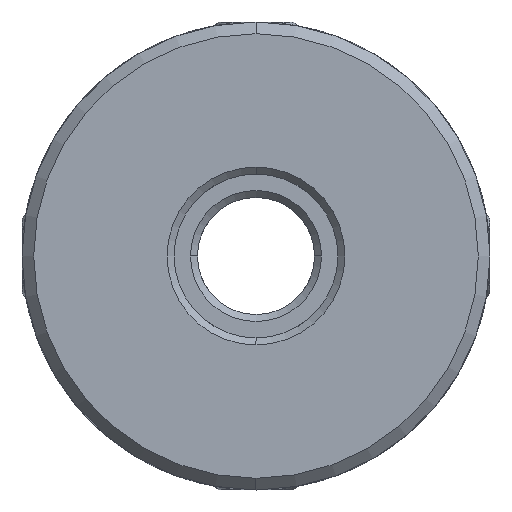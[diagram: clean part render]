
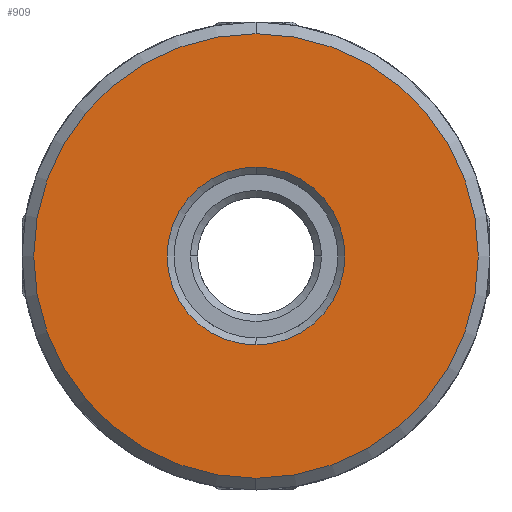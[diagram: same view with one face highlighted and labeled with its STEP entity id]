
A CAD part, front view. The second image highlights one B-rep face of the part: STEP entity #909.
In plain terms, the highlighted planar face has unit normal (0, -1, 0).
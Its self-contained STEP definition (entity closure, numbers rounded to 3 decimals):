
#64 = VERTEX_POINT ( 'NONE', #3288 ) ;
#68 = EDGE_CURVE ( 'NONE', #64, #2817, #7001, .T. ) ;
#280 = DIRECTION ( 'NONE',  ( 0., 1., 0. ) ) ;
#476 = AXIS2_PLACEMENT_3D ( 'NONE', #3103, #6066, #8363 ) ;
#909 = ADVANCED_FACE ( 'NONE', ( #5584, #3099 ), #2309, .F. ) ;
#927 = VERTEX_POINT ( 'NONE', #3828 ) ;
#1043 = CARTESIAN_POINT ( 'NONE',  ( 0., -23., 0. ) ) ;
#1368 = EDGE_LOOP ( 'NONE', ( #3138, #1529 ) ) ;
#1529 = ORIENTED_EDGE ( 'NONE', *, *, #2140, .T. ) ;
#1855 = VERTEX_POINT ( 'NONE', #8794 ) ;
#1993 = EDGE_LOOP ( 'NONE', ( #7072, #6052 ) ) ;
#2140 = EDGE_CURVE ( 'NONE', #1855, #927, #7194, .T. ) ;
#2166 = AXIS2_PLACEMENT_3D ( 'NONE', #2590, #6284, #7038 ) ;
#2249 = DIRECTION ( 'NONE',  ( 0., 1., 0. ) ) ;
#2309 = PLANE ( 'NONE',  #3614 ) ;
#2590 = CARTESIAN_POINT ( 'NONE',  ( 0., -23., 0. ) ) ;
#2817 = VERTEX_POINT ( 'NONE', #6010 ) ;
#3099 = FACE_OUTER_BOUND ( 'NONE', #1993, .T. ) ;
#3103 = CARTESIAN_POINT ( 'NONE',  ( 0., -23., 0. ) ) ;
#3138 = ORIENTED_EDGE ( 'NONE', *, *, #4991, .T. ) ;
#3288 = CARTESIAN_POINT ( 'NONE',  ( 0., -23., -9.5 ) ) ;
#3614 = AXIS2_PLACEMENT_3D ( 'NONE', #6057, #2249, #7493 ) ;
#3828 = CARTESIAN_POINT ( 'NONE',  ( 0., -23., 3.8 ) ) ;
#4045 = DIRECTION ( 'NONE',  ( 0., 0., -1. ) ) ;
#4807 = CARTESIAN_POINT ( 'NONE',  ( 0., -23., 0. ) ) ;
#4991 = EDGE_CURVE ( 'NONE', #927, #1855, #6940, .T. ) ;
#5584 = FACE_BOUND ( 'NONE', #1368, .T. ) ;
#6010 = CARTESIAN_POINT ( 'NONE',  ( 0., -23., 9.5 ) ) ;
#6052 = ORIENTED_EDGE ( 'NONE', *, *, #6302, .T. ) ;
#6057 = CARTESIAN_POINT ( 'NONE',  ( 50., -23., -15.365 ) ) ;
#6066 = DIRECTION ( 'NONE',  ( 0., 1., 0. ) ) ;
#6143 = CIRCLE ( 'NONE', #2166, 9.5 ) ;
#6284 = DIRECTION ( 'NONE',  ( 0., -1., 0. ) ) ;
#6288 = DIRECTION ( 'NONE',  ( 0., -1., 0. ) ) ;
#6302 = EDGE_CURVE ( 'NONE', #2817, #64, #6143, .T. ) ;
#6451 = AXIS2_PLACEMENT_3D ( 'NONE', #1043, #6288, #7078 ) ;
#6547 = AXIS2_PLACEMENT_3D ( 'NONE', #4807, #280, #4045 ) ;
#6940 = CIRCLE ( 'NONE', #6547, 3.8 ) ;
#7001 = CIRCLE ( 'NONE', #6451, 9.5 ) ;
#7038 = DIRECTION ( 'NONE',  ( 0., 0., -1. ) ) ;
#7072 = ORIENTED_EDGE ( 'NONE', *, *, #68, .T. ) ;
#7078 = DIRECTION ( 'NONE',  ( 0., 0., -1. ) ) ;
#7194 = CIRCLE ( 'NONE', #476, 3.8 ) ;
#7493 = DIRECTION ( 'NONE',  ( 0., 0., -1. ) ) ;
#8363 = DIRECTION ( 'NONE',  ( 0., 0., -1. ) ) ;
#8794 = CARTESIAN_POINT ( 'NONE',  ( 0., -23., -3.8 ) ) ;
